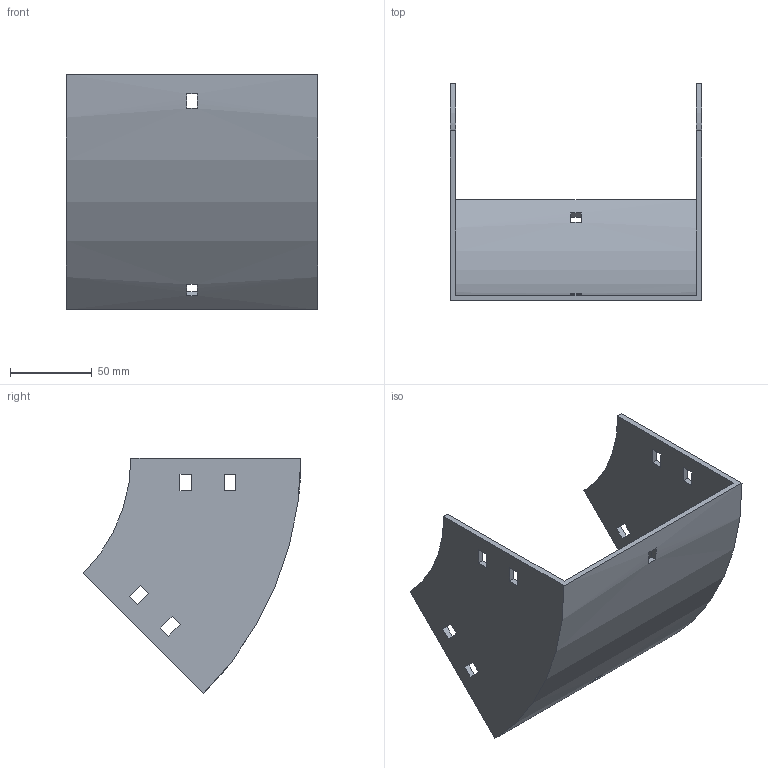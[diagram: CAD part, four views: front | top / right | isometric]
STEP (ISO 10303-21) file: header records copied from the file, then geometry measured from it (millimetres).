
FILE_DESCRIPTION (( 'STEP AP214' ), '1' );
FILE_NAME ('31B1D150.step', '2025-02-21T09:45:36', ( '' ), ( '' ), 'SwSTEP 2.0', 'SolidWorks 2023', '' );
FILE_SCHEMA (( 'AUTOMOTIVE_DESIGN' ));
Length unit declared in the file: millimetre
Products named in the file (1): 31B1D150
Bounding box: 154 x 133.29 x 144.25 mm (x, y, z)
Volume: 166264.8 mm3; surface area: 99222.6 mm2
Topology: 1 solids, 1 shells, 50 faces, 144 edges, 96 vertices
Faces by surface type: plane 46, cylinder 4
Entity records: 1687 total; most frequent: CARTESIAN_POINT 291, ORIENTED_EDGE 288, DIRECTION 262, EDGE_CURVE 144, VECTOR 128, LINE 128, VERTEX_POINT 96, EDGE_LOOP 70
